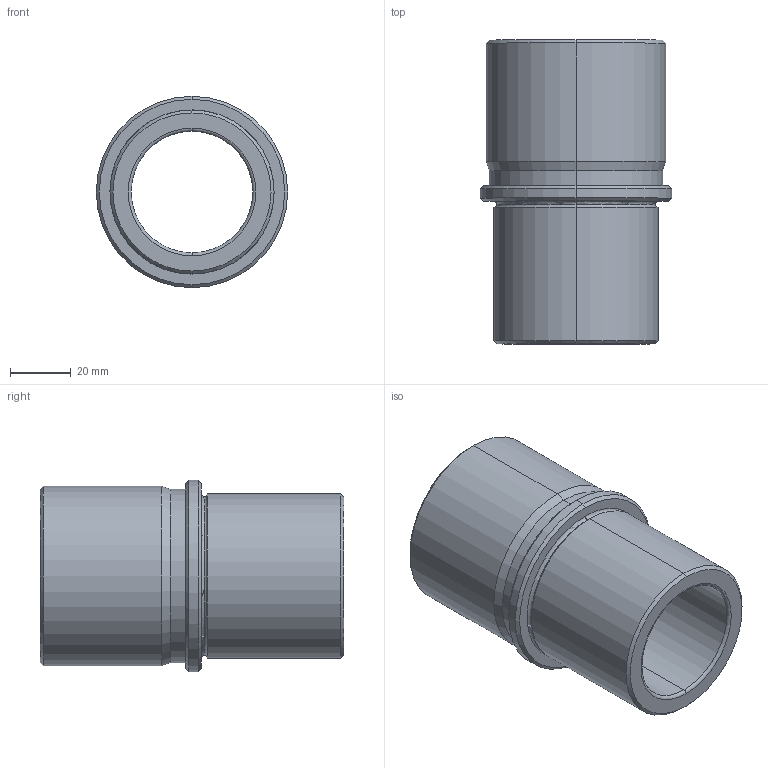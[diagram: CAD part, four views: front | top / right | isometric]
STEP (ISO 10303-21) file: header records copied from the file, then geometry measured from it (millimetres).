
FILE_DESCRIPTION(('CATIA V5 STEP Exchange'),'2;1');
FILE_NAME('C:\Users\Utente\Desktop\IO LAVORO\3D X SITO CF\X SITO\CF 450\CF 450 40x100.stp','2020-12-27T17:53:37+00:00',('none'),('none'),'CATIA Version 5 Release 20 GA (IN-10)','CATIA V5 STEP AP203','none');
FILE_SCHEMA(('CONFIG_CONTROL_DESIGN'));
Length unit declared in the file: millimetre
Products named in the file (1): CF 450 40x100
Bounding box: 63 x 100 x 63 mm (x, y, z)
Volume: 126919.5 mm3; surface area: 33947.6 mm2
Topology: 1 solids, 1 shells, 32 faces, 98 edges, 70 vertices
Faces by surface type: cone 10, cylinder 10, torus 8, plane 4
Entity records: 1236 total; most frequent: CARTESIAN_POINT 313, ORIENTED_EDGE 196, DIRECTION 154, AXIS2_PLACEMENT_3D 103, EDGE_CURVE 98, CIRCLE 70, VERTEX_POINT 70, EDGE_LOOP 36
